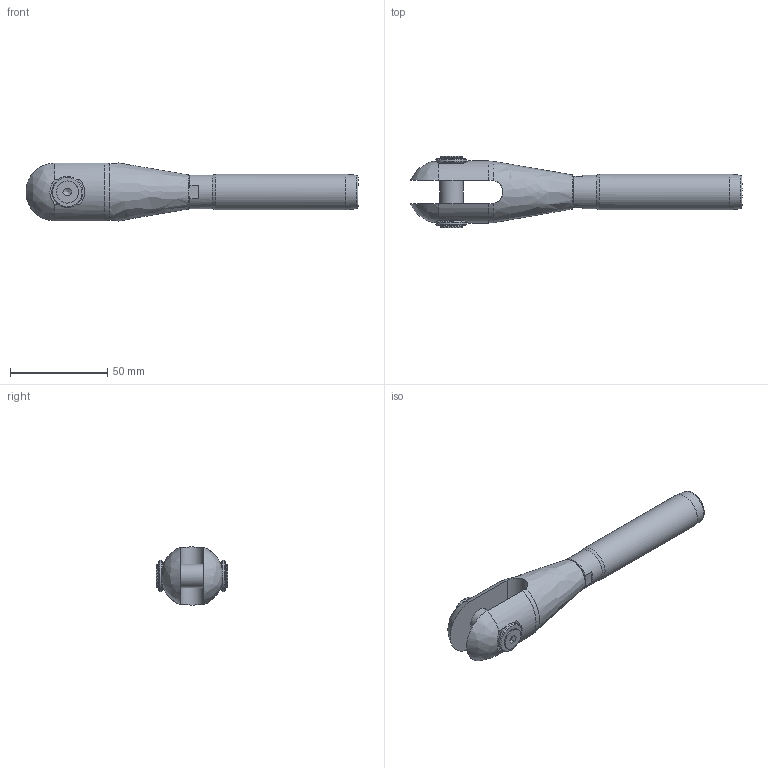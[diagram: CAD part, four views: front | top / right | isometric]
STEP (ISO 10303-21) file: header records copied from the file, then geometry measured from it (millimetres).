
FILE_DESCRIPTION(/* description */ (''),/* implementation_level */ '2;1');
FILE_NAME(/* name */ 'MAC-R 08_S355',/* time_stamp */ '2023-05-23T17:52:43+02:00',/* author */ (''),/* organization */ (''),/* preprocessor_version */ 'ST-DEVELOPER v16.5',/* originating_system */ 'Rhino 7.22',/* authorisation */ '');
FILE_SCHEMA (('CONFIG_CONTROL_DESIGN'));
Length unit declared in the file: millimetre
Products named in the file (1): Document
Bounding box: 170.81 x 36.74 x 29.91 mm (x, y, z)
Volume: 59359.1 mm3; surface area: 21010.4 mm2
Topology: 7 solids, 7 shells, 89 faces, 251 edges, 174 vertices
Faces by surface type: plane 37, bspline 28, cylinder 24
Full cylindrical faces by diameter (mm): 4.917 x2, 6 x2, 6.5 x2, 11.34 x2, 12 x1, 13 x2, 13.835 x1, 16 x3, 17.4 x1, 18.3 x1
Entity records: 3521 total; most frequent: CARTESIAN_POINT 1934, ORIENTED_EDGE 492, EDGE_CURVE 246, VERTEX_POINT 174, EDGE_LOOP 100, B_SPLINE_CURVE_WITH_KNOTS 99, ADVANCED_FACE 89, FACE_OUTER_BOUND 89
